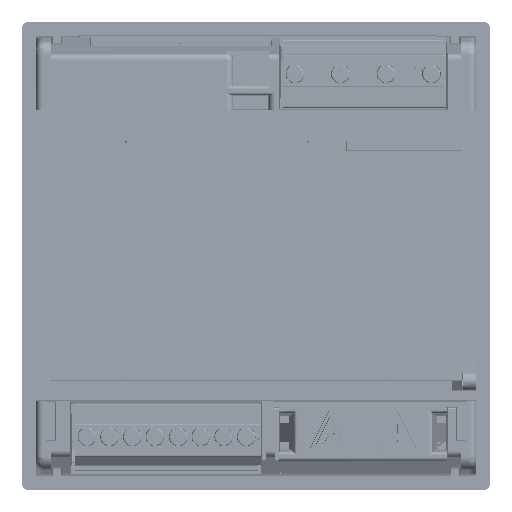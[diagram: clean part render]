
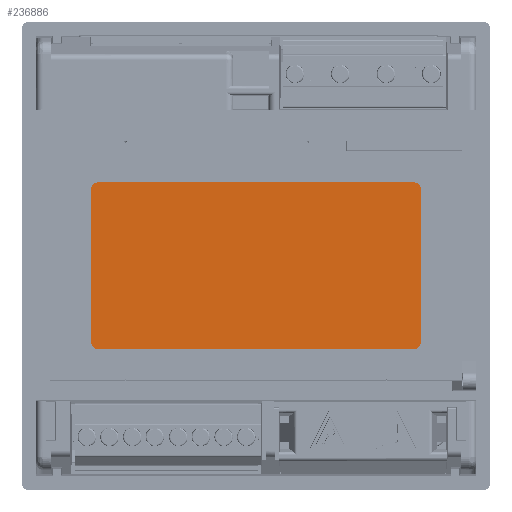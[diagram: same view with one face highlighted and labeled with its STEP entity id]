
A CAD part, top view. The second image highlights one B-rep face of the part: STEP entity #236886.
In plain terms, the highlighted planar face has unit normal (0, 0, 1).
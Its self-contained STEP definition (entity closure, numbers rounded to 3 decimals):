
#7600=CIRCLE($,#249601,1.);
#7601=CIRCLE($,#249602,1.);
#7602=CIRCLE($,#249603,1.);
#7603=CIRCLE($,#249604,1.);
#13976=FACE_OUTER_BOUND($,#26374,.T.);
#26374=EDGE_LOOP($,(#150887,#150888,#150889,#150890,#150891,#150892,#150893,
#150894));
#41082=LINE($,#337648,#66653);
#41083=LINE($,#337652,#66654);
#41084=LINE($,#337656,#66655);
#41085=LINE($,#337660,#66656);
#66653=VECTOR($,#271609,48.5);
#66654=VECTOR($,#271612,23.5);
#66655=VECTOR($,#271615,48.5);
#66656=VECTOR($,#271618,23.5);
#91896=VERTEX_POINT($,#337646);
#91897=VERTEX_POINT($,#337647);
#91898=VERTEX_POINT($,#337649);
#91899=VERTEX_POINT($,#337651);
#91900=VERTEX_POINT($,#337653);
#91901=VERTEX_POINT($,#337655);
#91902=VERTEX_POINT($,#337657);
#91903=VERTEX_POINT($,#337659);
#115102=EDGE_CURVE($,#91896,#91897,#41082,.T.);
#115103=EDGE_CURVE($,#91897,#91898,#7600,.T.);
#115104=EDGE_CURVE($,#91898,#91899,#41083,.T.);
#115105=EDGE_CURVE($,#91899,#91900,#7601,.T.);
#115106=EDGE_CURVE($,#91900,#91901,#41084,.T.);
#115107=EDGE_CURVE($,#91901,#91902,#7602,.T.);
#115108=EDGE_CURVE($,#91902,#91903,#41085,.T.);
#115109=EDGE_CURVE($,#91903,#91896,#7603,.T.);
#150887=ORIENTED_EDGE($,*,*,#115102,.T.);
#150888=ORIENTED_EDGE($,*,*,#115103,.T.);
#150889=ORIENTED_EDGE($,*,*,#115104,.T.);
#150890=ORIENTED_EDGE($,*,*,#115105,.T.);
#150891=ORIENTED_EDGE($,*,*,#115106,.T.);
#150892=ORIENTED_EDGE($,*,*,#115107,.T.);
#150893=ORIENTED_EDGE($,*,*,#115108,.T.);
#150894=ORIENTED_EDGE($,*,*,#115109,.T.);
#215701=PLANE($,#249600);
#236886=ADVANCED_FACE($,(#13976),#215701,.T.);
#249600=AXIS2_PLACEMENT_3D($,#337645,#271607,#271608);
#249601=AXIS2_PLACEMENT_3D($,#337650,#271610,#271611);
#249602=AXIS2_PLACEMENT_3D($,#337654,#271613,#271614);
#249603=AXIS2_PLACEMENT_3D($,#337658,#271616,#271617);
#249604=AXIS2_PLACEMENT_3D($,#337661,#271619,#271620);
#271607=DIRECTION('center_axis',(0.,0.,
1.));
#271608=DIRECTION('ref_axis',(1.,0.,0.));
#271609=DIRECTION($,(1.,0.,0.));
#271610=DIRECTION('center_axis',(0.,0.,
1.));
#271611=DIRECTION('ref_axis',(0.,-1.,0.));
#271612=DIRECTION($,(0.,1.,0.));
#271613=DIRECTION('center_axis',(0.,0.,
1.));
#271614=DIRECTION('ref_axis',(1.,0.,0.));
#271615=DIRECTION($,(-1.,0.,0.));
#271616=DIRECTION('center_axis',(0.,0.,
1.));
#271617=DIRECTION('ref_axis',(0.,1.,0.));
#271618=DIRECTION($,(0.,-1.,0.));
#271619=DIRECTION('center_axis',(0.,0.,
1.));
#271620=DIRECTION('ref_axis',(-1.,0.,0.));
#337645=CARTESIAN_POINT('Origin',(0.,-1.55,
38.1));
#337646=CARTESIAN_POINT('',(-24.25,-14.3,38.1));
#337647=CARTESIAN_POINT('',(24.25,-14.3,38.1));
#337648=CARTESIAN_POINT($,(-24.25,-14.3,38.1));
#337649=CARTESIAN_POINT('',(25.25,-13.3,38.1));
#337650=CARTESIAN_POINT('Origin',(24.25,-13.3,38.1));
#337651=CARTESIAN_POINT('',(25.25,10.2,38.1));
#337652=CARTESIAN_POINT($,(25.25,-13.3,38.1));
#337653=CARTESIAN_POINT('',(24.25,11.2,38.1));
#337654=CARTESIAN_POINT('Origin',(24.25,10.2,38.1));
#337655=CARTESIAN_POINT('',(-24.25,11.2,38.1));
#337656=CARTESIAN_POINT($,(24.25,11.2,38.1));
#337657=CARTESIAN_POINT('',(-25.25,10.2,38.1));
#337658=CARTESIAN_POINT('Origin',(-24.25,10.2,38.1));
#337659=CARTESIAN_POINT('',(-25.25,-13.3,38.1));
#337660=CARTESIAN_POINT($,(-25.25,10.2,38.1));
#337661=CARTESIAN_POINT('Origin',(-24.25,-13.3,38.1));
